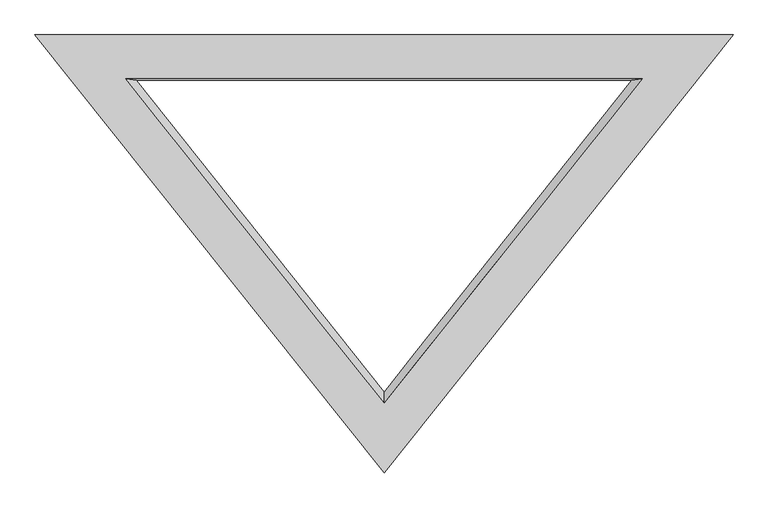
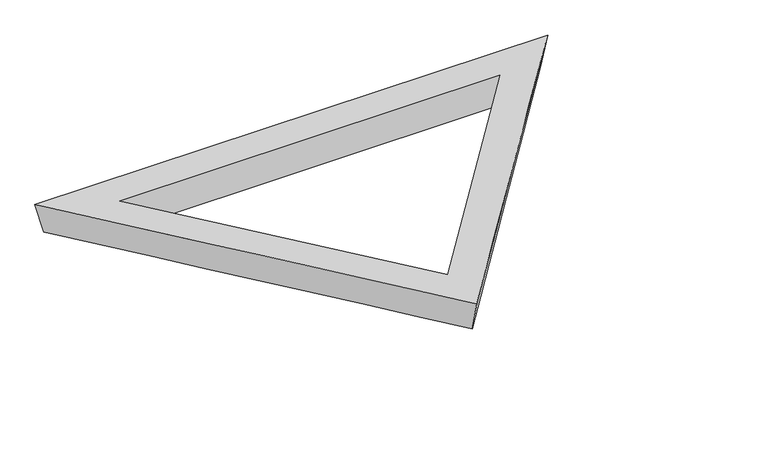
"""IFC4 building model written with IfcOpenShell, lengths in millimetres: plate geometry."""

from ifc_helpers import new_model, si_unit, frame, origin, place, context, project, spatial, source, transform, mapped, element, save
from ifc_brep_helpers import plane_surface, spline_surface, advanced_brep


def plate_88bd7255(model_context):
    return source(origin(), model_context, "Body", "AdvancedBrep", [
        advanced_brep(
        [(4941.6836635, 5537.9861046, 0.0), (4892.3134518, 5545.0827196, 196.7778026), (6096.0, 4035.9119861, 197.4104311), (6096.0, 4084.3808064, 0.0), (7299.6865482, 5545.0827196, 196.7778026), (7250.3163365, 5537.9861046, 0.0), (6096.0, 3757.6277908, 0.0), (7671.1550774, 5741.1861046, 0.0), (7721.6713147, 5748.2827017, 196.6926233), (6096.0, 3710.0314859, 197.5470368), (4520.8449226, 5741.1861046, 0.0), (4470.3286853, 5748.2827017, 196.6926233)],
        [
            (0, 1),
            (1, 2),
            (2, 3),
            (3, 0),
            (2, 4),
            (4, 5),
            (5, 3),
            (0, 5),
            (4, 1),
            (6, 7),
            (7, 8),
            (8, 9),
            (9, 6),
            (7, 10),
            (10, 11),
            (11, 8),
            (9, 11),
            (10, 6),
        ],
        [
            spline_surface(1, 1, [[(4941.6836635, 5537.9861046, 0.0), (6096.0, 4084.3808064, 0.0)], [(4892.3134518, 5545.0827196, 196.7778026), (6096.0, 4035.9119861, 197.4104311)]], [2, 2], [2, 2], [0.0, 1.0], [0.0, 1.0]),
            spline_surface(1, 1, [[(6096.0, 4084.3808064, 0.0), (7250.3163365, 5537.9861046, 0.0)], [(6096.0, 4035.9119861, 197.4104311), (7299.6865482, 5545.0827196, 196.7778026)]], [2, 2], [2, 2], [0.0, 1.0], [0.0, 1.0]),
            plane_surface(frame((6096.0, 5537.9861046, 0.0), z_axis=(0.0, -0.9993503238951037, 0.036040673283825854), x_axis=(-1.0, 0.0, -3.438818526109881e-12))),
            spline_surface(1, 1, [[(6096.0, 3757.6277908, 0.0), (6096.0, 3710.0314859, 197.5470368)], [(7671.1550774, 5741.1861046, 0.0), (7721.6713147, 5748.2827017, 196.6926233)]], [2, 2], [2, 2], [0.0, 1.0], [0.0, 1.0]),
            plane_surface(frame((6096.0, 5741.1861046, 0.0), z_axis=(0.0, 0.9993497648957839, -0.03605617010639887), x_axis=(-1.0, 0.0, -3.43881700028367e-12))),
            spline_surface(1, 1, [[(4520.8449226, 5741.1861046, 0.0), (4470.3286853, 5748.2827017, 196.6926233)], [(6096.0, 3757.6277908, 0.0), (6096.0, 3710.0314859, 197.5470368)]], [2, 2], [2, 2], [0.0, 1.0], [0.0, 1.0]),
            plane_surface(frame((6096.0, 5068.8656298, 196.9774278), z_axis=(-3.438816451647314e-12, 0.000419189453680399, 0.9999999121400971), x_axis=(0.6235413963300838, -0.7817902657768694, 0.00032771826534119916))),
            plane_surface(frame((6096.0, 5080.0, 0.0), z_axis=(3.438795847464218e-12, 0.0, -1.0000000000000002), x_axis=(-0.6218764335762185, 0.7831153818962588, -2.138452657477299e-12))),
        ],
        [
            (0, [[1, 2, 3, 4]]),
            (1, [[-3, 5, 6, 7]]),
            (2, [[-1, 8, -6, 9]]),
            (3, [[10, 11, 12, 13]]),
            (4, [[-11, 14, 15, 16]]),
            (5, [[-13, 17, -15, 18]]),
            (6, [[-12, -16, -17], [-2, -9, -5]]),
            (7, [[-10, -18, -14], [-4, -7, -8]]),
        ],
    ),
    ])


if __name__ == "__main__":
    model = new_model("IFC4")
    model_context = context("Model", 3, world=origin())
    ifc_project = project(units=[si_unit("LENGTHUNIT", "METRE", prefix="MILLI")], contexts=[model_context])
    site = spatial("IfcSite", under=ifc_project)
    building = spatial("IfcBuilding", under=site)
    placement = place(None, origin())
    plate_shape = plate_88bd7255(model_context)
    element("IfcPlate", 1, ObjectType="tn_cpanel_patbase_triangle_flat_seamless_frame_02_cylinder : tn_cpanel_pattern_mullion_t8\"xh8\"", at=placement, inside=building, context=model_context, shape_type="MappedRepresentation", body=[
        mapped(plate_shape, transform((0.0, 0.0, 0.0), x_axis=(1.0, 0.0, 0.0), y_axis=(0.0, 1.0, 0.0), z_axis=(0.0, 0.0, 1.0))),
    ])
    save(model, "model.ifc")
